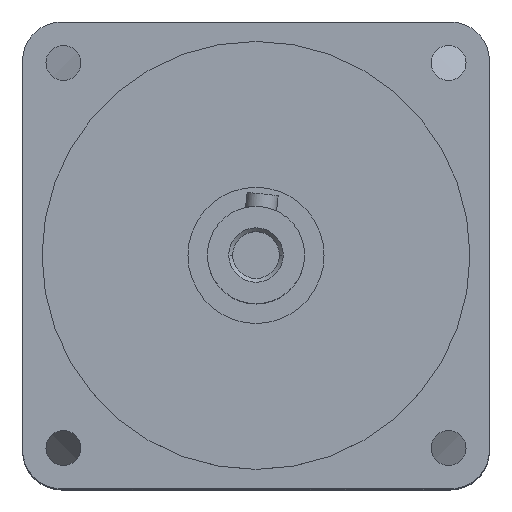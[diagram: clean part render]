
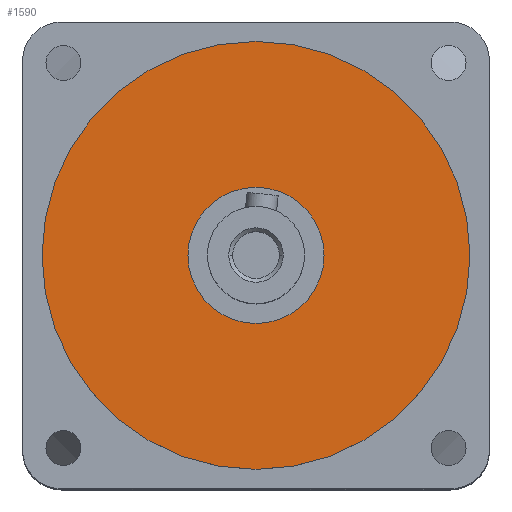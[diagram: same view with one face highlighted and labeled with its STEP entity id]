
A CAD part, top view. The second image highlights one B-rep face of the part: STEP entity #1590.
In plain terms, the highlighted planar face has unit normal (0, 0, 1).
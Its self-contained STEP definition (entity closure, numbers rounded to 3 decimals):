
#183 = PLANE ( 'NONE',  #1696 ) ;
#308 = EDGE_CURVE ( 'NONE', #1882, #2673, #1557, .T. ) ;
#357 = AXIS2_PLACEMENT_3D ( 'NONE', #2942, #1442, #3191 ) ;
#714 = DIRECTION ( 'NONE',  ( 1., 0., 0. ) ) ;
#1017 = CIRCLE ( 'NONE', #357, 55. ) ;
#1025 = EDGE_CURVE ( 'NONE', #2673, #1882, #1017, .T. ) ;
#1284 = DIRECTION ( 'NONE',  ( 0., 0., -1. ) ) ;
#1320 = EDGE_LOOP ( 'NONE', ( #1896, #2785 ) ) ;
#1405 = FACE_OUTER_BOUND ( 'NONE', #1320, .T. ) ;
#1427 = CARTESIAN_POINT ( 'NONE',  ( -14.874, -22.151, 341.871 ) ) ;
#1442 = DIRECTION ( 'NONE',  ( 0., 0., -1. ) ) ;
#1557 = CIRCLE ( 'NONE', #1684, 55. ) ;
#1590 = ADVANCED_FACE ( 'NONE', ( #1405 ), #183, .T. ) ;
#1684 = AXIS2_PLACEMENT_3D ( 'NONE', #2786, #1284, #3027 ) ;
#1696 = AXIS2_PLACEMENT_3D ( 'NONE', #1951, #2200, #714 ) ;
#1778 = CARTESIAN_POINT ( 'NONE',  ( 95.126, -22.151, 341.871 ) ) ;
#1882 = VERTEX_POINT ( 'NONE', #1427 ) ;
#1896 = ORIENTED_EDGE ( 'NONE', *, *, #308, .F. ) ;
#1951 = CARTESIAN_POINT ( 'NONE',  ( 40.126, -22.151, 341.871 ) ) ;
#2200 = DIRECTION ( 'NONE',  ( 0., 0., 1. ) ) ;
#2673 = VERTEX_POINT ( 'NONE', #1778 ) ;
#2785 = ORIENTED_EDGE ( 'NONE', *, *, #1025, .F. ) ;
#2786 = CARTESIAN_POINT ( 'NONE',  ( 40.126, -22.151, 341.871 ) ) ;
#2942 = CARTESIAN_POINT ( 'NONE',  ( 40.126, -22.151, 341.871 ) ) ;
#3027 = DIRECTION ( 'NONE',  ( -1., 0., 0. ) ) ;
#3191 = DIRECTION ( 'NONE',  ( -1., 0., 0. ) ) ;
